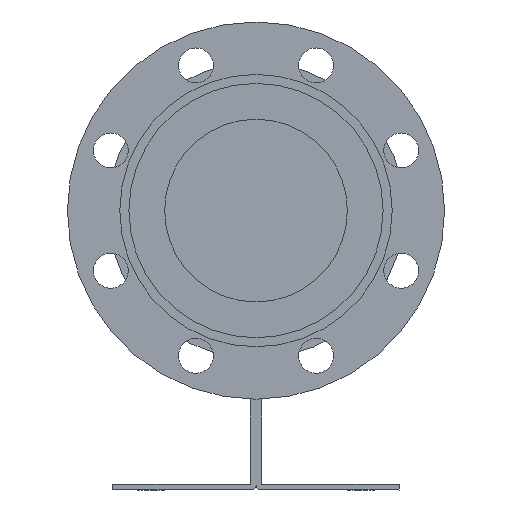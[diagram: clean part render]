
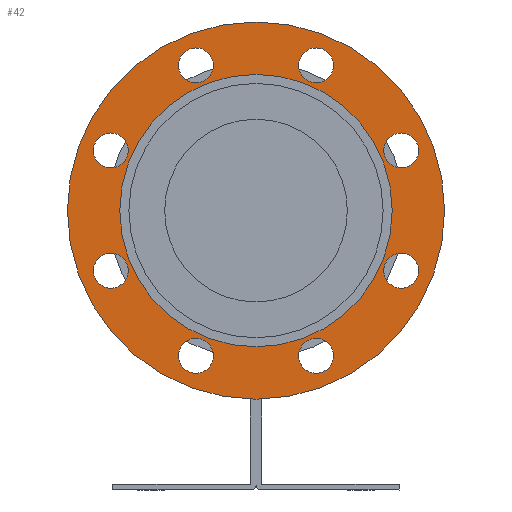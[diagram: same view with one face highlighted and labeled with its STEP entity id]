
A CAD part, left-side view. The second image highlights one B-rep face of the part: STEP entity #42.
In plain terms, the highlighted planar face has unit normal (-1, 0, 0).
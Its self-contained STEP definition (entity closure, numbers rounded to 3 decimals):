
#42=ADVANCED_FACE('',(#174,#175,#176,#177,#178,#179,#180,#181,#182,#183),#173,.T.);
#173=PLANE('',#1249);
#174=FACE_OUTER_BOUND('',#1250,.T.);
#175=FACE_BOUND('',#1251,.T.);
#176=FACE_BOUND('',#1252,.T.);
#177=FACE_BOUND('',#1253,.T.);
#178=FACE_BOUND('',#1254,.T.);
#179=FACE_BOUND('',#1255,.T.);
#180=FACE_BOUND('',#1256,.T.);
#181=FACE_BOUND('',#1257,.T.);
#182=FACE_BOUND('',#1258,.T.);
#183=FACE_BOUND('',#1259,.T.);
#1246=CARTESIAN_POINT('',(-436.5,-243.827,-280.));
#1247=DIRECTION('',(-1.,0.,0.));
#1248=DIRECTION('',(0.,0.,1.));
#1249=AXIS2_PLACEMENT_3D('',#1246,#1247,#1248);
#1250=EDGE_LOOP('',(#1819,#1820));
#1251=EDGE_LOOP('',(#1821,#1822));
#1252=EDGE_LOOP('',(#1823,#1824));
#1253=EDGE_LOOP('',(#1825,#1826));
#1254=EDGE_LOOP('',(#1827,#1828));
#1255=EDGE_LOOP('',(#1829,#1830));
#1256=EDGE_LOOP('',(#1831,#1832));
#1257=EDGE_LOOP('',(#1833,#1834));
#1258=EDGE_LOOP('',(#1835,#1836));
#1259=EDGE_LOOP('',(#1837,#1838));
#1819=ORIENTED_EDGE('',*,*,#2351,.T.);
#1820=ORIENTED_EDGE('',*,*,#2352,.T.);
#1821=ORIENTED_EDGE('',*,*,#2353,.T.);
#1822=ORIENTED_EDGE('',*,*,#2354,.T.);
#1823=ORIENTED_EDGE('',*,*,#2355,.T.);
#1824=ORIENTED_EDGE('',*,*,#2356,.T.);
#1825=ORIENTED_EDGE('',*,*,#2357,.T.);
#1826=ORIENTED_EDGE('',*,*,#2358,.T.);
#1827=ORIENTED_EDGE('',*,*,#2359,.T.);
#1828=ORIENTED_EDGE('',*,*,#2360,.T.);
#1829=ORIENTED_EDGE('',*,*,#2361,.T.);
#1830=ORIENTED_EDGE('',*,*,#2362,.T.);
#1831=ORIENTED_EDGE('',*,*,#2363,.T.);
#1832=ORIENTED_EDGE('',*,*,#2364,.T.);
#1833=ORIENTED_EDGE('',*,*,#2365,.T.);
#1834=ORIENTED_EDGE('',*,*,#2366,.T.);
#1835=ORIENTED_EDGE('',*,*,#2367,.T.);
#1836=ORIENTED_EDGE('',*,*,#2368,.T.);
#1837=ORIENTED_EDGE('',*,*,#2369,.F.);
#1838=ORIENTED_EDGE('',*,*,#2370,.F.);
#2351=EDGE_CURVE('',#2767,#2768,#2769,.T.);
#2352=EDGE_CURVE('',#2768,#2767,#2775,.T.);
#2353=EDGE_CURVE('',#2781,#2782,#2783,.T.);
#2354=EDGE_CURVE('',#2782,#2781,#2789,.T.);
#2355=EDGE_CURVE('',#2795,#2796,#2797,.T.);
#2356=EDGE_CURVE('',#2796,#2795,#2803,.T.);
#2357=EDGE_CURVE('',#2809,#2810,#2811,.T.);
#2358=EDGE_CURVE('',#2810,#2809,#2817,.T.);
#2359=EDGE_CURVE('',#2823,#2824,#2825,.T.);
#2360=EDGE_CURVE('',#2824,#2823,#2831,.T.);
#2361=EDGE_CURVE('',#2837,#2838,#2839,.T.);
#2362=EDGE_CURVE('',#2838,#2837,#2845,.T.);
#2363=EDGE_CURVE('',#2851,#2852,#2853,.T.);
#2364=EDGE_CURVE('',#2852,#2851,#2859,.T.);
#2365=EDGE_CURVE('',#2865,#2866,#2867,.T.);
#2366=EDGE_CURVE('',#2866,#2865,#2873,.T.);
#2367=EDGE_CURVE('',#2879,#2880,#2881,.T.);
#2368=EDGE_CURVE('',#2880,#2879,#2887,.T.);
#2369=EDGE_CURVE('',#2893,#2894,#2895,.T.);
#2370=EDGE_CURVE('',#2894,#2893,#2901,.T.);
#2767=VERTEX_POINT('',#4491);
#2768=VERTEX_POINT('',#4492);
#2769=CIRCLE('',#4496,135.);
#2775=CIRCLE('',#4500,135.);
#2781=VERTEX_POINT('',#4501);
#2782=VERTEX_POINT('',#4502);
#2783=CIRCLE('',#4506,12.5);
#2789=CIRCLE('',#4510,12.5);
#2795=VERTEX_POINT('',#4511);
#2796=VERTEX_POINT('',#4512);
#2797=CIRCLE('',#4516,12.5);
#2803=CIRCLE('',#4520,12.5);
#2809=VERTEX_POINT('',#4521);
#2810=VERTEX_POINT('',#4522);
#2811=CIRCLE('',#4526,12.5);
#2817=CIRCLE('',#4530,12.5);
#2823=VERTEX_POINT('',#4531);
#2824=VERTEX_POINT('',#4532);
#2825=CIRCLE('',#4536,12.5);
#2831=CIRCLE('',#4540,12.5);
#2837=VERTEX_POINT('',#4541);
#2838=VERTEX_POINT('',#4542);
#2839=CIRCLE('',#4546,12.5);
#2845=CIRCLE('',#4550,12.5);
#2851=VERTEX_POINT('',#4551);
#2852=VERTEX_POINT('',#4552);
#2853=CIRCLE('',#4556,12.5);
#2859=CIRCLE('',#4560,12.5);
#2865=VERTEX_POINT('',#4561);
#2866=VERTEX_POINT('',#4562);
#2867=CIRCLE('',#4566,12.5);
#2873=CIRCLE('',#4570,12.5);
#2879=VERTEX_POINT('',#4571);
#2880=VERTEX_POINT('',#4572);
#2881=CIRCLE('',#4576,12.5);
#2887=CIRCLE('',#4580,12.5);
#2893=VERTEX_POINT('',#4581);
#2894=VERTEX_POINT('',#4582);
#2895=CIRCLE('',#4586,97.5);
#2901=CIRCLE('',#4590,97.5);
#4491=CARTESIAN_POINT('',(-436.5,0.,135.));
#4492=CARTESIAN_POINT('',(-436.5,0.,-135.));
#4493=CARTESIAN_POINT('',(-436.5,0.,0.));
#4494=DIRECTION('',(-1.,0.,0.));
#4495=DIRECTION('',(0.,0.,1.));
#4496=AXIS2_PLACEMENT_3D('',#4493,#4494,#4495);
#4497=CARTESIAN_POINT('',(-436.5,0.,0.));
#4498=DIRECTION('',(-1.,0.,0.));
#4499=DIRECTION('',(0.,0.,1.));
#4500=AXIS2_PLACEMENT_3D('',#4497,#4498,#4499);
#4501=CARTESIAN_POINT('',(-436.5,-103.936,55.552));
#4502=CARTESIAN_POINT('',(-436.5,-103.936,30.552));
#4503=CARTESIAN_POINT('',(-436.5,-103.936,43.052));
#4504=DIRECTION('',(1.,0.,0.));
#4505=DIRECTION('',(0.,0.,1.));
#4506=AXIS2_PLACEMENT_3D('',#4503,#4504,#4505);
#4507=CARTESIAN_POINT('',(-436.5,-103.936,43.052));
#4508=DIRECTION('',(1.,0.,0.));
#4509=DIRECTION('',(0.,0.,1.));
#4510=AXIS2_PLACEMENT_3D('',#4507,#4508,#4509);
#4511=CARTESIAN_POINT('',(-436.5,103.936,55.552));
#4512=CARTESIAN_POINT('',(-436.5,103.936,30.552));
#4513=CARTESIAN_POINT('',(-436.5,103.936,43.052));
#4514=DIRECTION('',(1.,0.,0.));
#4515=DIRECTION('',(0.,0.,1.));
#4516=AXIS2_PLACEMENT_3D('',#4513,#4514,#4515);
#4517=CARTESIAN_POINT('',(-436.5,103.936,43.052));
#4518=DIRECTION('',(1.,0.,0.));
#4519=DIRECTION('',(0.,0.,1.));
#4520=AXIS2_PLACEMENT_3D('',#4517,#4518,#4519);
#4521=CARTESIAN_POINT('',(-436.5,103.936,-30.552));
#4522=CARTESIAN_POINT('',(-436.5,103.936,-55.552));
#4523=CARTESIAN_POINT('',(-436.5,103.936,-43.052));
#4524=DIRECTION('',(1.,0.,0.));
#4525=DIRECTION('',(0.,0.,1.));
#4526=AXIS2_PLACEMENT_3D('',#4523,#4524,#4525);
#4527=CARTESIAN_POINT('',(-436.5,103.936,-43.052));
#4528=DIRECTION('',(1.,0.,0.));
#4529=DIRECTION('',(0.,0.,1.));
#4530=AXIS2_PLACEMENT_3D('',#4527,#4528,#4529);
#4531=CARTESIAN_POINT('',(-436.5,-43.052,-91.436));
#4532=CARTESIAN_POINT('',(-436.5,-43.052,-116.436));
#4533=CARTESIAN_POINT('',(-436.5,-43.052,-103.936));
#4534=DIRECTION('',(1.,0.,0.));
#4535=DIRECTION('',(0.,0.,1.));
#4536=AXIS2_PLACEMENT_3D('',#4533,#4534,#4535);
#4537=CARTESIAN_POINT('',(-436.5,-43.052,-103.936));
#4538=DIRECTION('',(1.,0.,0.));
#4539=DIRECTION('',(0.,0.,1.));
#4540=AXIS2_PLACEMENT_3D('',#4537,#4538,#4539);
#4541=CARTESIAN_POINT('',(-436.5,43.052,-91.436));
#4542=CARTESIAN_POINT('',(-436.5,43.052,-116.436));
#4543=CARTESIAN_POINT('',(-436.5,43.052,-103.936));
#4544=DIRECTION('',(1.,0.,0.));
#4545=DIRECTION('',(0.,0.,1.));
#4546=AXIS2_PLACEMENT_3D('',#4543,#4544,#4545);
#4547=CARTESIAN_POINT('',(-436.5,43.052,-103.936));
#4548=DIRECTION('',(1.,0.,0.));
#4549=DIRECTION('',(0.,0.,1.));
#4550=AXIS2_PLACEMENT_3D('',#4547,#4548,#4549);
#4551=CARTESIAN_POINT('',(-436.5,-103.936,-30.552));
#4552=CARTESIAN_POINT('',(-436.5,-103.936,-55.552));
#4553=CARTESIAN_POINT('',(-436.5,-103.936,-43.052));
#4554=DIRECTION('',(1.,0.,0.));
#4555=DIRECTION('',(0.,0.,1.));
#4556=AXIS2_PLACEMENT_3D('',#4553,#4554,#4555);
#4557=CARTESIAN_POINT('',(-436.5,-103.936,-43.052));
#4558=DIRECTION('',(1.,0.,0.));
#4559=DIRECTION('',(0.,0.,1.));
#4560=AXIS2_PLACEMENT_3D('',#4557,#4558,#4559);
#4561=CARTESIAN_POINT('',(-436.5,43.052,116.436));
#4562=CARTESIAN_POINT('',(-436.5,43.052,91.436));
#4563=CARTESIAN_POINT('',(-436.5,43.052,103.936));
#4564=DIRECTION('',(1.,0.,0.));
#4565=DIRECTION('',(0.,0.,1.));
#4566=AXIS2_PLACEMENT_3D('',#4563,#4564,#4565);
#4567=CARTESIAN_POINT('',(-436.5,43.052,103.936));
#4568=DIRECTION('',(1.,0.,0.));
#4569=DIRECTION('',(0.,0.,1.));
#4570=AXIS2_PLACEMENT_3D('',#4567,#4568,#4569);
#4571=CARTESIAN_POINT('',(-436.5,-43.052,116.436));
#4572=CARTESIAN_POINT('',(-436.5,-43.052,91.436));
#4573=CARTESIAN_POINT('',(-436.5,-43.052,103.936));
#4574=DIRECTION('',(1.,0.,0.));
#4575=DIRECTION('',(0.,0.,1.));
#4576=AXIS2_PLACEMENT_3D('',#4573,#4574,#4575);
#4577=CARTESIAN_POINT('',(-436.5,-43.052,103.936));
#4578=DIRECTION('',(1.,0.,0.));
#4579=DIRECTION('',(0.,0.,1.));
#4580=AXIS2_PLACEMENT_3D('',#4577,#4578,#4579);
#4581=CARTESIAN_POINT('',(-436.5,0.,-97.5));
#4582=CARTESIAN_POINT('',(-436.5,0.,97.5));
#4583=CARTESIAN_POINT('',(-436.5,0.,0.));
#4584=DIRECTION('',(-1.,0.,0.));
#4585=DIRECTION('',(0.,0.,1.));
#4586=AXIS2_PLACEMENT_3D('',#4583,#4584,#4585);
#4587=CARTESIAN_POINT('',(-436.5,0.,0.));
#4588=DIRECTION('',(-1.,0.,0.));
#4589=DIRECTION('',(0.,0.,1.));
#4590=AXIS2_PLACEMENT_3D('',#4587,#4588,#4589);
